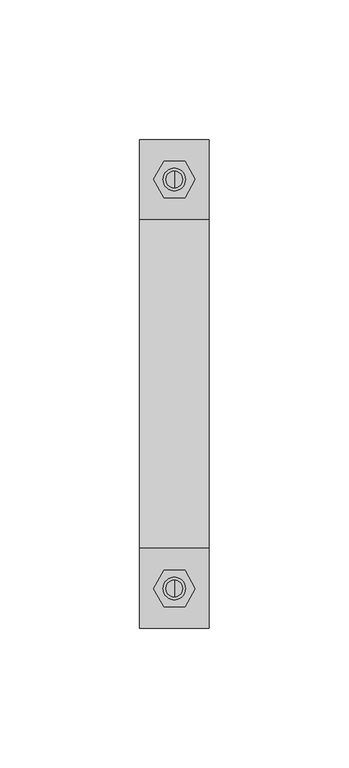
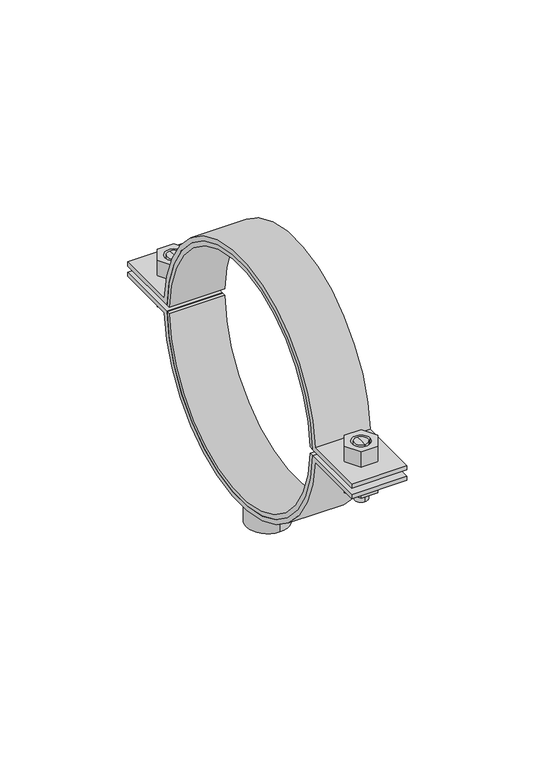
"""IFC4 building model written with IfcOpenShell, lengths in millimetres: valve geometry, Superfix DG2 Clamp : Superfix DG2 Clamp."""

from ifc_helpers import new_model, si_unit, point, frame, frame_2d, origin, origin_2d, place, context, project, spatial, polyline, circle_curve, trimmed, segment, composite_curve, outline, extrude, source, transform, mapped, element, save
from ifc_brep_helpers import plane_surface, cylinder_surface, advanced_brep


def valve_03d34d46(model_context):
    return source(origin(), model_context, "Body", "SolidModel", [
        advanced_brep(
        [(0.0, 76.25, 183.9), (0.0, 70.25, 183.9), (0.0, 70.25, 198.5), (0.0, 76.25, 198.5), (0.0, 73.25, 183.9)],
        [
            (0, 1, circle_curve(frame((0.0, 73.25, 183.9), z_axis=(0.0, 0.0, 1.0), x_axis=(0.0, 1.0, 0.0)), 3.0)),
            (1, 2),
            (2, 3, circle_curve(frame((0.0, 73.25, 198.5), z_axis=(0.0, 0.0, -1.0), x_axis=(0.0, 1.0, 0.0)), 3.0)),
            (3, 0),
            (1, 0, circle_curve(frame((0.0, 73.25, 183.9), z_axis=(0.0, 0.0, 1.0), x_axis=(0.0, 1.0, 0.0)), 3.0)),
            (3, 2, circle_curve(frame((0.0, 73.25, 198.5), z_axis=(0.0, 0.0, -1.0), x_axis=(0.0, 1.0, 0.0)), 3.0)),
            (0, 4),
            (4, 1),
        ],
        [
            cylinder_surface(frame((0.0, 73.25, 198.2806094), z_axis=(0.0, 0.0, 1.0), x_axis=(0.0, 1.0, 0.0)), 3.0),
            plane_surface(frame((0.0, 73.25, 183.9), z_axis=(0.0, 0.0, -1.0), x_axis=(0.0, 1.0, 0.0))),
            plane_surface(frame((13.75, -87.5, 198.5), z_axis=(0.0, 0.0, 1.0), x_axis=(-1.0, 0.0, 0.0))),
        ],
        [
            (0, [[1, 2, 3, 4]]),
            (0, [[5, -4, 6, -2]]),
            (1, [[-1, 7, 8]]),
            (1, [[-5, -8, -7]]),
            (2, [[-3, -6]]),
        ],
    ),
        advanced_brep(
        [(0.0, 70.25, 211.1), (0.0, 76.25, 211.1), (0.0, 76.25, 201.5), (0.0, 70.25, 201.5), (0.0, 73.25, 211.1)],
        [
            (0, 1, circle_curve(frame((0.0, 73.25, 211.1), z_axis=(0.0, 0.0, -1.0), x_axis=(0.0, 1.0, 0.0)), 3.0)),
            (1, 2),
            (2, 3, circle_curve(frame((0.0, 73.25, 201.5), z_axis=(0.0, 0.0, 1.0), x_axis=(0.0, 1.0, 0.0)), 3.0)),
            (3, 0),
            (1, 0, circle_curve(frame((0.0, 73.25, 211.1), z_axis=(0.0, 0.0, -1.0), x_axis=(0.0, 1.0, 0.0)), 3.0)),
            (3, 2, circle_curve(frame((0.0, 73.25, 201.5), z_axis=(0.0, 0.0, 1.0), x_axis=(0.0, 1.0, 0.0)), 3.0)),
            (0, 4),
            (4, 1),
        ],
        [
            cylinder_surface(frame((0.0, 73.25, 198.2806094), z_axis=(0.0, 0.0, 1.0), x_axis=(0.0, 1.0, 0.0)), 3.0),
            plane_surface(frame((0.0, 73.25, 211.1), z_axis=(0.0, 0.0, 1.0), x_axis=(0.0, 1.0, 0.0))),
            plane_surface(frame((13.75, 87.5, 201.5), z_axis=(0.0, 0.0, -1.0), x_axis=(-1.0, 0.0, 0.0))),
        ],
        [
            (0, [[1, 2, 3, 4]]),
            (0, [[5, -4, 6, -2]]),
            (1, [[-1, 7, 8]]),
            (1, [[-5, -8, -7]]),
            (2, [[-3, -6]]),
        ],
    ),
        advanced_brep(
        [(0.0, -76.25, 211.1), (0.0, -70.25, 211.1), (0.0, -70.25, 201.5), (0.0, -76.25, 201.5), (0.0, -73.25, 211.1)],
        [
            (0, 1, circle_curve(frame((0.0, -73.25, 211.1), z_axis=(0.0, 0.0, -1.0), x_axis=(0.0, -1.0, 0.0)), 3.0)),
            (1, 2),
            (2, 3, circle_curve(frame((0.0, -73.25, 201.5), z_axis=(0.0, 0.0, 1.0), x_axis=(0.0, -1.0, 0.0)), 3.0)),
            (3, 0),
            (1, 0, circle_curve(frame((0.0, -73.25, 211.1), z_axis=(0.0, 0.0, -1.0), x_axis=(0.0, -1.0, 0.0)), 3.0)),
            (3, 2, circle_curve(frame((0.0, -73.25, 201.5), z_axis=(0.0, 0.0, 1.0), x_axis=(0.0, -1.0, 0.0)), 3.0)),
            (0, 4),
            (4, 1),
        ],
        [
            cylinder_surface(frame((0.0, -73.25, 198.2806094), z_axis=(0.0, 0.0, -1.0), x_axis=(0.0, -1.0, 0.0)), 3.0),
            plane_surface(frame((0.0, -73.25, 211.1), z_axis=(0.0, 0.0, 1.0), x_axis=(0.0, -1.0, 0.0))),
            plane_surface(frame((13.75, 87.5, 201.5), z_axis=(0.0, 0.0, -1.0), x_axis=(-1.0, 0.0, 0.0))),
        ],
        [
            (0, [[1, 2, 3, 4]]),
            (0, [[5, -4, 6, -2]]),
            (1, [[-1, 7, 8]]),
            (1, [[-5, -8, -7]]),
            (2, [[-3, -6]]),
        ],
    ),
        advanced_brep(
        [(0.0, -70.25, 183.9), (0.0, -76.25, 183.9), (0.0, -76.25, 198.5), (0.0, -70.25, 198.5), (0.0, -73.25, 183.9)],
        [
            (0, 1, circle_curve(frame((0.0, -73.25, 183.9), z_axis=(0.0, 0.0, 1.0), x_axis=(0.0, -1.0, 0.0)), 3.0)),
            (1, 2),
            (2, 3, circle_curve(frame((0.0, -73.25, 198.5), z_axis=(0.0, 0.0, -1.0), x_axis=(0.0, -1.0, 0.0)), 3.0)),
            (3, 0),
            (1, 0, circle_curve(frame((0.0, -73.25, 183.9), z_axis=(0.0, 0.0, 1.0), x_axis=(0.0, -1.0, 0.0)), 3.0)),
            (3, 2, circle_curve(frame((0.0, -73.25, 198.5), z_axis=(0.0, 0.0, -1.0), x_axis=(0.0, -1.0, 0.0)), 3.0)),
            (0, 4),
            (4, 1),
        ],
        [
            cylinder_surface(frame((0.0, -73.25, 198.2806094), z_axis=(0.0, 0.0, -1.0), x_axis=(0.0, -1.0, 0.0)), 3.0),
            plane_surface(frame((0.0, -73.25, 183.9), z_axis=(0.0, 0.0, -1.0), x_axis=(0.0, -1.0, 0.0))),
            plane_surface(frame((13.75, -87.5, 198.5), z_axis=(0.0, 0.0, 1.0), x_axis=(-1.0, 0.0, 0.0))),
        ],
        [
            (0, [[1, 2, 3, 4]]),
            (0, [[5, -4, 6, -2]]),
            (1, [[-1, 7, 8]]),
            (1, [[-5, -8, -7]]),
            (2, [[-3, -6]]),
        ],
    ),
        extrude(outline(composite_curve([segment(trimmed(circle_curve(frame_2d((0.0, 200.0)), 57.0), [point((-56.9802597, 198.5))], [point((56.9802597, 198.5))], True, "CARTESIAN"), True, "CONTINUOUS"), segment(polyline([(56.9802597, 198.5), (87.5, 198.5), (87.5, 196.5), (58.8960949, 196.5)]), True, "CONTINUOUS"), segment(trimmed(circle_curve(frame_2d((0.0, 200.0)), 59.0), [point((58.8960949, 196.5))], [point((-58.8960949, 196.5))], False, "CARTESIAN"), True, "CONTINUOUS"), segment(polyline([(-58.8960949, 196.5), (-87.5, 196.5), (-87.5, 198.5), (-56.9802597, 198.5)]), True, "CONTINUOUS")], self_intersect=False)), frame((-12.5, 0.0, 0.0), z_axis=(1.0, 0.0, 0.0), x_axis=(0.0, 1.0, 0.0)), (0.0, 0.0, 1.0), 25.0),
        extrude(outline(composite_curve([segment(trimmed(circle_curve(frame_2d((0.0, 200.0)), 57.0), [point((56.9802597, 201.5))], [point((-56.9802597, 201.5))], True, "CARTESIAN"), True, "CONTINUOUS"), segment(polyline([(-56.9802597, 201.5), (-87.5, 201.5), (-87.5, 203.5), (-58.8960949, 203.5)]), True, "CONTINUOUS"), segment(trimmed(circle_curve(frame_2d((0.0, 200.0)), 59.0), [point((-58.8960949, 203.5))], [point((58.8960949, 203.5))], False, "CARTESIAN"), True, "CONTINUOUS"), segment(polyline([(58.8960949, 203.5), (87.5, 203.5), (87.5, 201.5), (56.9802597, 201.5)]), True, "CONTINUOUS")], self_intersect=False)), frame((-12.5, 0.0, 0.0), z_axis=(1.0, 0.0, 0.0), x_axis=(0.0, 1.0, 0.0)), (0.0, 0.0, 1.0), 25.0),
        extrude(outline(polyline([(7.5055535, -73.25), (3.7527767, -79.75), (-3.7527767, -79.75), (-7.5055535, -73.25), (-3.7527767, -66.75), (3.7527767, -66.75), (7.5055535, -73.25)]), holes=[composite_curve([segment(trimmed(circle_curve(frame_2d((0.0, -73.25)), 4.0), [point((4.0, -73.25))], [point((-4.0, -73.25))], True, "CARTESIAN"), True, "CONTINUOUS"), segment(trimmed(circle_curve(frame_2d((0.0, -73.25)), 4.0), [point((-4.0, -73.25))], [point((4.0, -73.25))], True, "CARTESIAN"), True, "CONTINUOUS")], self_intersect=False)]), frame((0.0, 0.0, 203.5), z_axis=(0.0, 0.0, 1.0), x_axis=(1.0, 0.0, 0.0)), (0.0, 0.0, 1.0), 7.6),
        extrude(outline(polyline([(7.5055535, 73.25), (3.7527767, 66.75), (-3.7527767, 66.75), (-7.5055535, 73.25), (-3.7527767, 79.75), (3.7527767, 79.75), (7.5055535, 73.25)]), holes=[composite_curve([segment(trimmed(circle_curve(frame_2d((0.0, 73.25)), 4.0), [point((4.0, 73.25))], [point((-4.0, 73.25))], True, "CARTESIAN"), True, "CONTINUOUS"), segment(trimmed(circle_curve(frame_2d((0.0, 73.25)), 4.0), [point((-4.0, 73.25))], [point((4.0, 73.25))], True, "CARTESIAN"), True, "CONTINUOUS")], self_intersect=False)]), frame((0.0, 0.0, 203.5), z_axis=(0.0, 0.0, 1.0), x_axis=(1.0, 0.0, 0.0)), (0.0, 0.0, 1.0), 7.6),
        extrude(outline(polyline([(7.5055535, -73.25), (3.7527767, -79.75), (-3.7527767, -79.75), (-7.5055535, -73.25), (-3.7527767, -66.75), (3.7527767, -66.75), (7.5055535, -73.25)]), holes=[composite_curve([segment(trimmed(circle_curve(frame_2d((0.0, -73.25)), 4.0), [point((4.0, -73.25))], [point((-4.0, -73.25))], True, "CARTESIAN"), True, "CONTINUOUS"), segment(trimmed(circle_curve(frame_2d((0.0, -73.25)), 4.0), [point((-4.0, -73.25))], [point((4.0, -73.25))], True, "CARTESIAN"), True, "CONTINUOUS")], self_intersect=False)]), frame((0.0, 0.0, 188.9), z_axis=(0.0, 0.0, 1.0), x_axis=(1.0, 0.0, 0.0)), (0.0, 0.0, 1.0), 7.6),
        extrude(outline(polyline([(7.5055535, 73.25), (3.7527767, 66.75), (-3.7527767, 66.75), (-7.5055535, 73.25), (-3.7527767, 79.75), (3.7527767, 79.75), (7.5055535, 73.25)]), holes=[composite_curve([segment(trimmed(circle_curve(frame_2d((0.0, 73.25)), 4.0), [point((4.0, 73.25))], [point((-4.0, 73.25))], True, "CARTESIAN"), True, "CONTINUOUS"), segment(trimmed(circle_curve(frame_2d((0.0, 73.25)), 4.0), [point((-4.0, 73.25))], [point((4.0, 73.25))], True, "CARTESIAN"), True, "CONTINUOUS")], self_intersect=False)]), frame((0.0, 0.0, 188.9), z_axis=(0.0, 0.0, 1.0), x_axis=(1.0, 0.0, 0.0)), (0.0, 0.0, 1.0), 7.6),
        extrude(outline(composite_curve([segment(trimmed(circle_curve(origin_2d(), 9.5), [point((0.0, 9.5))], [point((0.0, -9.5))], False, "CARTESIAN"), True, "CONTINUOUS"), segment(trimmed(circle_curve(origin_2d(), 9.5), [point((0.0, -9.5))], [point((0.0, 9.5))], False, "CARTESIAN"), True, "CONTINUOUS")], self_intersect=False), holes=[composite_curve([segment(trimmed(circle_curve(origin_2d(), 6.0), [point((0.0, 6.0))], [point((0.0, -6.0))], True, "CARTESIAN"), True, "CONTINUOUS"), segment(trimmed(circle_curve(origin_2d(), 6.0), [point((0.0, -6.0))], [point((0.0, 6.0))], True, "CARTESIAN"), True, "CONTINUOUS")], self_intersect=False)]), frame((0.0, 0.0, 129.0), z_axis=(0.0, 0.0, 1.0), x_axis=(1.0, 0.0, 0.0)), (0.0, 0.0, 1.0), 14.0),
        extrude(outline(composite_curve([segment(trimmed(circle_curve(frame_2d((0.0, 200.0)), 55.0), [point((54.9795416, 201.5))], [point((-54.9795416, 201.5))], True, "CARTESIAN"), True, "CONTINUOUS"), segment(polyline([(-54.9795416, 201.5), (-56.9802597, 201.5)]), True, "CONTINUOUS"), segment(trimmed(circle_curve(frame_2d((0.0, 200.0)), 57.0), [point((-56.9802597, 201.5))], [point((56.9802597, 201.5))], False, "CARTESIAN"), True, "CONTINUOUS"), segment(polyline([(56.9802597, 201.5), (54.9795416, 201.5)]), True, "CONTINUOUS")], self_intersect=False)), frame((-12.5, 0.0, 0.0), z_axis=(1.0, 0.0, 0.0), x_axis=(0.0, 1.0, 0.0)), (0.0, 0.0, 1.0), 25.0),
        extrude(outline(composite_curve([segment(polyline([(54.9795416, 198.5), (56.9802597, 198.5)]), True, "CONTINUOUS"), segment(trimmed(circle_curve(frame_2d((0.0, 200.0)), 57.0), [point((56.9802597, 198.5))], [point((-56.9802597, 198.5))], False, "CARTESIAN"), True, "CONTINUOUS"), segment(polyline([(-56.9802597, 198.5), (-54.9795416, 198.5)]), True, "CONTINUOUS"), segment(trimmed(circle_curve(frame_2d((0.0, 200.0)), 55.0), [point((-54.9795416, 198.5))], [point((54.9795416, 198.5))], True, "CARTESIAN"), True, "CONTINUOUS")], self_intersect=False)), frame((-12.5, 0.0, 0.0), z_axis=(1.0, 0.0, 0.0), x_axis=(0.0, 1.0, 0.0)), (0.0, 0.0, 1.0), 25.0),
    ])


if __name__ == "__main__":
    model = new_model("IFC4")
    model_context = context("Model", 3, world=origin())
    ifc_project = project(units=[si_unit("LENGTHUNIT", "METRE", prefix="MILLI")], contexts=[model_context])
    site = spatial("IfcSite", under=ifc_project)
    building = spatial("IfcBuilding", under=site)
    placement = place(None, origin())
    valve_shape = valve_03d34d46(model_context)
    element("IfcValve", 1, ObjectType="Superfix DG2 Clamp : Superfix DG2 Clamp", at=placement, inside=building, context=model_context, shape_type="MappedRepresentation", body=[
        mapped(valve_shape, transform((0.0, 0.0, 0.0), x_axis=(1.0, 0.0, 0.0), y_axis=(0.0, 1.0, 0.0), z_axis=(0.0, 0.0, 1.0))),
    ])
    save(model, "model.ifc")
